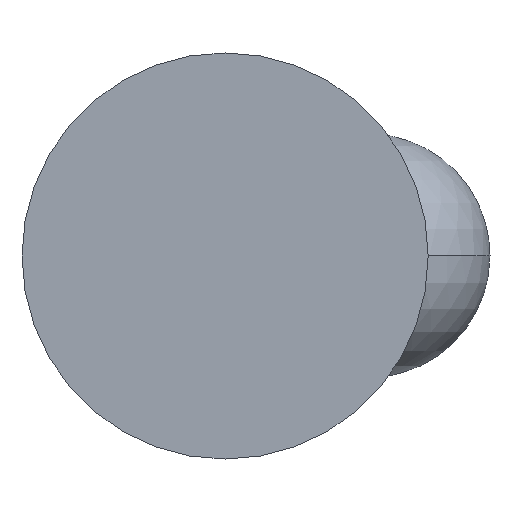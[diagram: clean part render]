
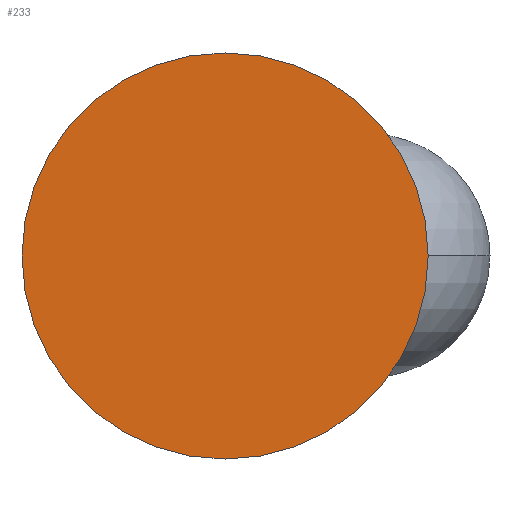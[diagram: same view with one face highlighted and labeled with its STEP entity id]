
A CAD part, front view. The second image highlights one B-rep face of the part: STEP entity #233.
In plain terms, the highlighted planar face has unit normal (0, -1, 0).
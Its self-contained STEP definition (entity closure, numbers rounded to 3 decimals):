
#20 = CIRCLE ( 'NONE', #268, 100. ) ;
#37 = CIRCLE ( 'NONE', #288, 100. ) ;
#39 = CARTESIAN_POINT ( 'NONE',  ( 0., 0., 100. ) ) ;
#40 = DIRECTION ( 'NONE',  ( 0., 0., -1. ) ) ;
#111 = DIRECTION ( 'NONE',  ( 0., 1., 0. ) ) ;
#117 = CARTESIAN_POINT ( 'NONE',  ( 0., 0., 0. ) ) ;
#120 = CARTESIAN_POINT ( 'NONE',  ( -753.25, 0., 270.647 ) ) ;
#233 = ADVANCED_FACE ( 'NONE', ( #448 ), #319, .T. ) ;
#268 = AXIS2_PLACEMENT_3D ( 'NONE', #117, #599, #798 ) ;
#288 = AXIS2_PLACEMENT_3D ( 'NONE', #495, #111, #40 ) ;
#319 = PLANE ( 'NONE',  #580 ) ;
#383 = DIRECTION ( 'NONE',  ( 0., -1., 0. ) ) ;
#420 = ORIENTED_EDGE ( 'NONE', *, *, #809, .F. ) ;
#448 = FACE_OUTER_BOUND ( 'NONE', #784, .T. ) ;
#482 = ORIENTED_EDGE ( 'NONE', *, *, #487, .F. ) ;
#487 = EDGE_CURVE ( 'NONE', #843, #570, #37, .T. ) ;
#495 = CARTESIAN_POINT ( 'NONE',  ( 0., 0., 0. ) ) ;
#570 = VERTEX_POINT ( 'NONE', #39 ) ;
#580 = AXIS2_PLACEMENT_3D ( 'NONE', #120, #383, #648 ) ;
#599 = DIRECTION ( 'NONE',  ( 0., 1., 0. ) ) ;
#648 = DIRECTION ( 'NONE',  ( -1., 0., 0. ) ) ;
#784 = EDGE_LOOP ( 'NONE', ( #482, #420 ) ) ;
#798 = DIRECTION ( 'NONE',  ( 0., 0., -1. ) ) ;
#809 = EDGE_CURVE ( 'NONE', #570, #843, #20, .T. ) ;
#843 = VERTEX_POINT ( 'NONE', #861 ) ;
#861 = CARTESIAN_POINT ( 'NONE',  ( 0., 0., -100. ) ) ;
